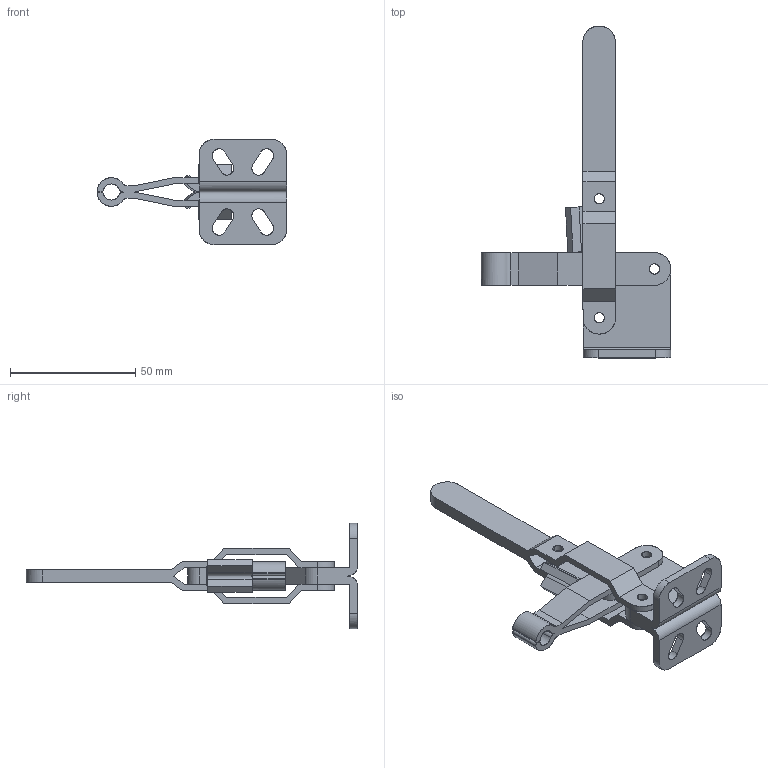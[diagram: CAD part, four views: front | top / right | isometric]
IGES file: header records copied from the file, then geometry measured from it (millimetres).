
Start section: Comment
Global section: file name: 12002c.igs; native system:  By Spatial Corp.; preprocessor: XPlus PS/IGES 3.0; author: Author; organization: Title; date: 20050216.165920; units: inch
Bounding box: 75.59 x 132.5 x 42 mm (x, y, z)
Surface area: 19158.1 mm2 (no closed solid volume)
Topology: 0 solids, 0 shells, 145 faces, 822 edges, 822 vertices
Faces by surface type: revolution 73, extrusion 72
